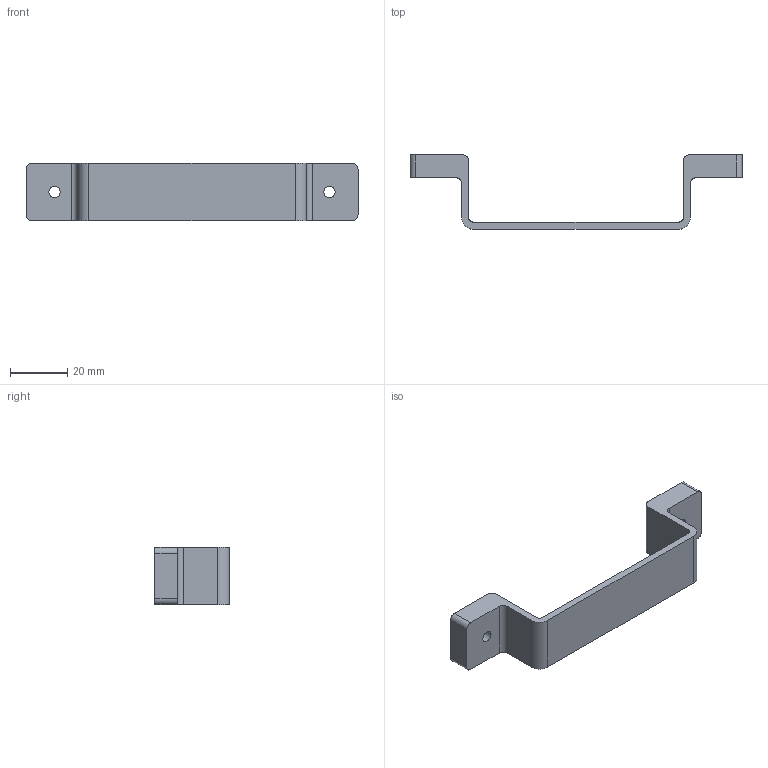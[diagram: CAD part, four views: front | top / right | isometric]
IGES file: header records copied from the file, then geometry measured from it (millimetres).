
Start section: Data from Parasolid IGES Translator 15.0.47, Copyright(c) 2006 Siemens P LM Software. All Rights Reserved.
Global section: file name: 9080840.igs; native system:  By UGS Corp.; preprocessor: XPlus GENERIC/IGES 3.0; author: Noname; organization: Noname; date: 20140122.102656; units: millimetre
Bounding box: 116 x 26 x 20 mm (x, y, z)
Surface area: 7772.6 mm2 (no closed solid volume)
Topology: 0 solids, 0 shells, 28 faces, 156 edges, 154 vertices
Faces by surface type: extrusion 14, revolution 14
